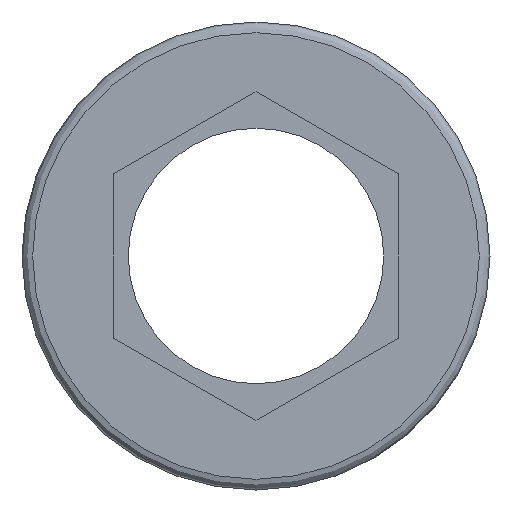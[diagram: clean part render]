
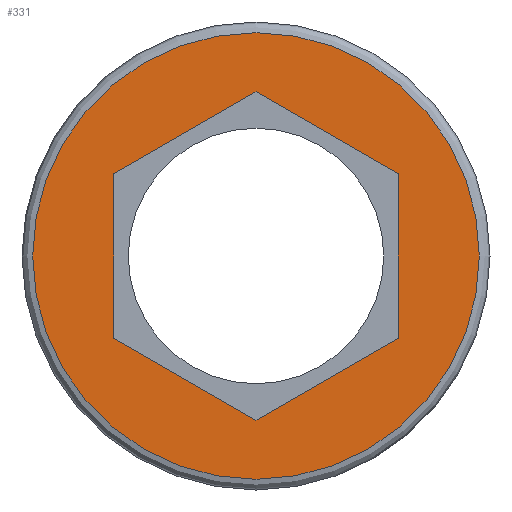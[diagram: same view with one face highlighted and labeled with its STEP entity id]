
A CAD part, front view. The second image highlights one B-rep face of the part: STEP entity #331.
In plain terms, the highlighted planar face has unit normal (0, -1, 0).
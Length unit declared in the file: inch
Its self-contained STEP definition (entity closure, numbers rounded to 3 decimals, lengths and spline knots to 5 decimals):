
#17=FACE_BOUND('',#108,.T.);
#22=PLANE('',#378);
#34=LINE('',#550,#57);
#35=LINE('',#552,#58);
#36=LINE('',#554,#59);
#37=LINE('',#556,#60);
#38=LINE('',#558,#61);
#39=LINE('',#559,#62);
#57=VECTOR('',#446,0.3937);
#58=VECTOR('',#447,0.3937);
#59=VECTOR('',#448,0.3937);
#60=VECTOR('',#449,0.3937);
#61=VECTOR('',#450,0.3937);
#62=VECTOR('',#451,0.3937);
#87=FACE_OUTER_BOUND('',#107,.T.);
#107=EDGE_LOOP('',(#253,#254));
#108=EDGE_LOOP('',(#255,#256,#257,#258,#259,#260));
#132=CIRCLE('',#370,0.146);
#136=CIRCLE('',#374,0.146);
#155=VERTEX_POINT('',#532);
#156=VERTEX_POINT('',#533);
#161=VERTEX_POINT('',#548);
#162=VERTEX_POINT('',#549);
#163=VERTEX_POINT('',#551);
#164=VERTEX_POINT('',#553);
#165=VERTEX_POINT('',#555);
#166=VERTEX_POINT('',#557);
#190=EDGE_CURVE('',#155,#156,#132,.T.);
#194=EDGE_CURVE('',#156,#155,#136,.T.);
#198=EDGE_CURVE('',#161,#162,#34,.T.);
#199=EDGE_CURVE('',#162,#163,#35,.T.);
#200=EDGE_CURVE('',#163,#164,#36,.T.);
#201=EDGE_CURVE('',#164,#165,#37,.T.);
#202=EDGE_CURVE('',#165,#166,#38,.T.);
#203=EDGE_CURVE('',#166,#161,#39,.T.);
#253=ORIENTED_EDGE('',*,*,#190,.F.);
#254=ORIENTED_EDGE('',*,*,#194,.F.);
#255=ORIENTED_EDGE('',*,*,#198,.T.);
#256=ORIENTED_EDGE('',*,*,#199,.T.);
#257=ORIENTED_EDGE('',*,*,#200,.T.);
#258=ORIENTED_EDGE('',*,*,#201,.T.);
#259=ORIENTED_EDGE('',*,*,#202,.T.);
#260=ORIENTED_EDGE('',*,*,#203,.T.);
#331=ADVANCED_FACE('',(#87,#17),#22,.T.);
#370=AXIS2_PLACEMENT_3D('',#534,#427,#428);
#374=AXIS2_PLACEMENT_3D('',#540,#435,#436);
#378=AXIS2_PLACEMENT_3D('',#547,#444,#445);
#427=DIRECTION('center_axis',(0.,1.,0.));
#428=DIRECTION('ref_axis',(0.,0.,1.));
#435=DIRECTION('center_axis',(0.,1.,0.));
#436=DIRECTION('ref_axis',(0.,0.,1.));
#444=DIRECTION('center_axis',(0.,-1.,0.));
#445=DIRECTION('ref_axis',(0.,0.,-1.));
#446=DIRECTION('',(0.866,0.,-0.5));
#447=DIRECTION('',(0.,0.,-1.));
#448=DIRECTION('',(-0.866,0.,-0.5));
#449=DIRECTION('',(-0.866,0.,0.5));
#450=DIRECTION('',(0.,0.,1.));
#451=DIRECTION('',(0.866,0.,0.5));
#532=CARTESIAN_POINT('',(0.,0.,-0.146));
#533=CARTESIAN_POINT('',(0.,0.,0.146));
#534=CARTESIAN_POINT('Origin',(0.,0.,0.));
#540=CARTESIAN_POINT('Origin',(0.,0.,0.));
#547=CARTESIAN_POINT('Origin',(0.,0.,-0.0835));
#548=CARTESIAN_POINT('',(0.,0.,0.10739));
#549=CARTESIAN_POINT('',(0.093,0.,0.05369));
#550=CARTESIAN_POINT('',(0.04133,0.,0.08353));
#551=CARTESIAN_POINT('',(0.093,0.,-0.05369));
#552=CARTESIAN_POINT('',(0.093,0.,-0.0149));
#553=CARTESIAN_POINT('',(0.,0.,-0.10739));
#554=CARTESIAN_POINT('',(0.05167,0.,-0.07755));
#555=CARTESIAN_POINT('',(-0.093,0.,-0.05369));
#556=CARTESIAN_POINT('',(-0.00517,0.,-0.1044));
#557=CARTESIAN_POINT('',(-0.093,0.,0.05369));
#558=CARTESIAN_POINT('',(-0.093,0.,-0.0686));
#559=CARTESIAN_POINT('',(-0.08783,0.,0.05668));
